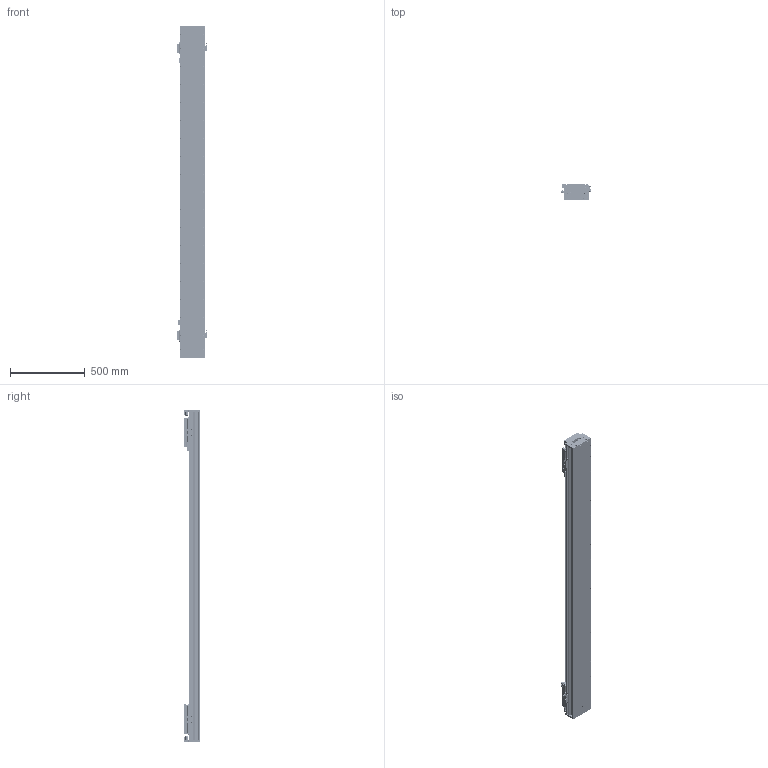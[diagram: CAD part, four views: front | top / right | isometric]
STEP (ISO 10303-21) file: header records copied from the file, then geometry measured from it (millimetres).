
FILE_DESCRIPTION (( 'STEP AP203' ), '1' );
FILE_NAME ('DKW168-2×C2-W090（T1700-L005-0.2）.STEP', '2022-03-08T01:21:44', ( '微软用户' ), ( '微软中国' ), 'SwSTEP 2.0', 'SolidWorks 2018', '' );
FILE_SCHEMA (( 'CONFIG_CONTROL_DESIGN' ));
Length unit declared in the file: millimetre
Products named in the file (24): 嫖萇羲壽蚾饜极A; CKM01-W090-TRL280; MSA20絳寢; C2-W090_00; DKW168-RU-DTJ-00 RU2黍杅芛盓殤; 10279-0001-003-00 傷啣; DKW168-HXJ-ZJ-00 笢潔滅袉砎蝶; RUS嫖掑喜; DKW168-HXJ-00 遣喳砎蝶; DKW-GYP-ZJ-00 笢潔嫖萇覜茼え; Ru2; 10392-0001-002-00 詩湍裔啣; DKW-KGZ-ZJ-00 中间光电开关支架; pm-y65; 10392-0001-003-00 詩湍嶺輸; EE_SX674A; 10980-0001-003-00 嫖萇羲壽嘐隅釱; 10392-0001-004-00 詩湍揤輸; DKW168-2×C2-W090（T1700-L005-0.2）; 嫖萇羲壽蚾饜极; 10279-0001-006-00 嶺輸菜輸; DKW-SG-GYP-H-00 嫖萇覜茼え; DKW168 单轴模组-拉钢带组件; 10392-0001-001-00 菁釱
Assembly tree (39 placements, depth 3):
  DKW168-2×C2-W090（T1700-L005-0.2）
    10392-0001-001-00 菁釱
    MSA20絳寢  x2
    DKW168 单轴模组-拉钢带组件
      10279-0001-003-00 傷啣  x2
      DKW168-HXJ-00 遣喳砎蝶  x4
      10392-0001-002-00 詩湍裔啣
      10392-0001-003-00 詩湍嶺輸  x2
      10392-0001-004-00 詩湍揤輸  x2
      10279-0001-006-00 嶺輸菜輸  x2
    CKM01-W090-TRL280
    DKW168-RU-DTJ-00 RU2黍杅芛盓殤  x2
    RUS嫖掑喜
    Ru2  x2
    嫖萇羲壽蚾饜极
      pm-y65  x2
      10980-0001-003-00 嫖萇羲壽嘐隅釱
    DKW-SG-GYP-H-00 嫖萇覜茼え  x2
    嫖萇羲壽蚾饜极A
      pm-y65  x2
      10980-0001-003-00 嫖萇羲壽嘐隅釱
    C2-W090_00  x2
    DKW168-HXJ-ZJ-00 笢潔滅袉砎蝶
    DKW-GYP-ZJ-00 笢潔嫖萇覜茼え
    DKW-KGZ-ZJ-00 中间光电开关支架
    EE_SX674A
Bounding box: 202.3 x 109 x 2220 mm (x, y, z)
Volume: 15476484.7 mm3; surface area: 4089894.8 mm2
Topology: 74 solids, 172 shells, 7558 faces, 19592 edges, 12521 vertices
Faces by surface type: plane 4084, cylinder 2104, cone 748, bspline 558, torus 32, sphere 32
Entity records: 146621 total; most frequent: CARTESIAN_POINT 46243, ORIENTED_EDGE 20363, DIRECTION 19437, EDGE_CURVE 10222, VERTEX_POINT 6632, AXIS2_PLACEMENT_3D 6515, LINE 6407, VECTOR 6407
